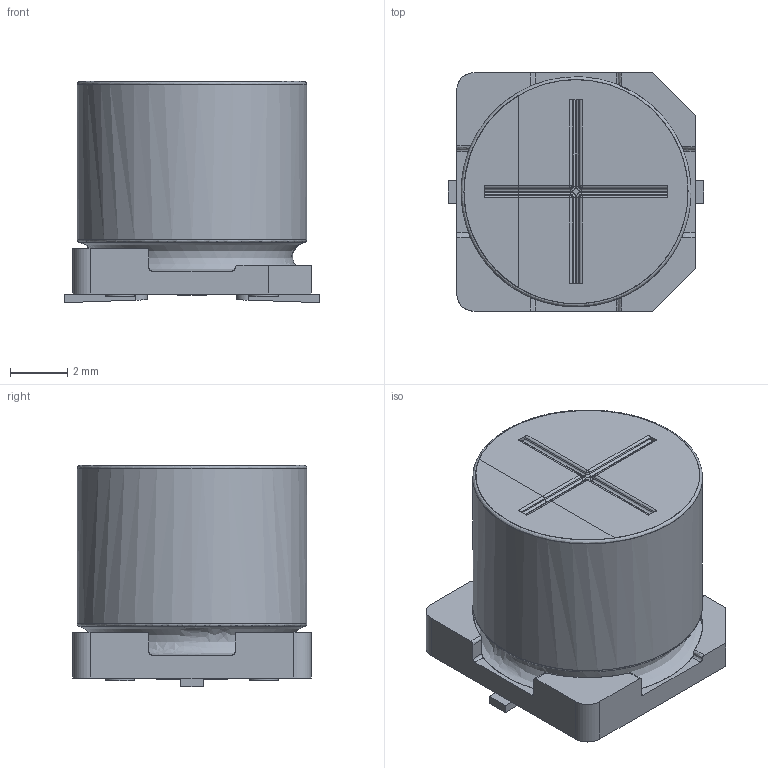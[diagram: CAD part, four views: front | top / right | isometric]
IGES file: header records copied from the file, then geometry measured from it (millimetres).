
Start section: JAMA-IS VERSION  1.0
Bounding box: 8.9 x 8.3 x 7.7 mm (x, y, z)
Surface area: 485.8 mm2 (no closed solid volume)
Topology: 0 solids, 0 shells, 132 faces, 1288 edges, 1270 vertices
Faces by surface type: bspline 132
